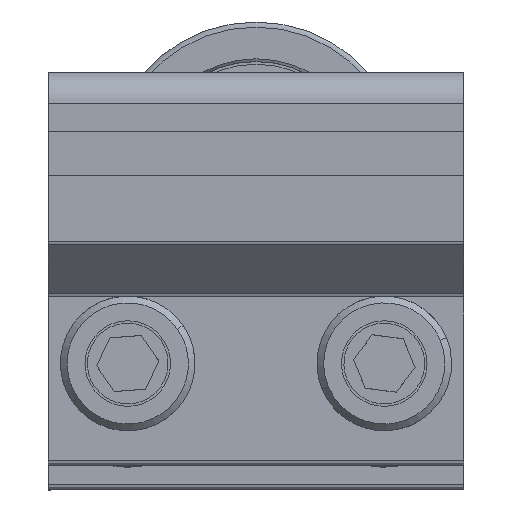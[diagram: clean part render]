
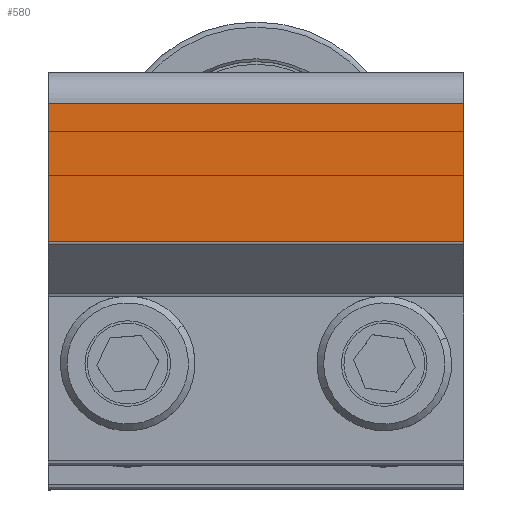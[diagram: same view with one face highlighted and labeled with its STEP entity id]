
A CAD part, top view. The second image highlights one B-rep face of the part: STEP entity #580.
In plain terms, the highlighted planar face has unit normal (0, 0, 1) as drawn and (1, 0, 0) by its records, which use the part's own axes.
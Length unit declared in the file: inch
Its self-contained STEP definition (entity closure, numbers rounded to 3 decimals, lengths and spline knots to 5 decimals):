
#74=DIRECTION('',(0.,0.,1.));
#75=VECTOR('',#74,1.216);
#76=CARTESIAN_POINT('',(0.375,0.35921,-0.608));
#77=LINE('',#76,#75);
#78=DIRECTION('',(0.,-1.,0.));
#79=VECTOR('',#78,0.40379);
#80=CARTESIAN_POINT('',(0.375,0.763,-0.608));
#81=LINE('',#80,#79);
#159=DIRECTION('',(0.,-1.,0.));
#160=VECTOR('',#159,0.40379);
#161=CARTESIAN_POINT('',(0.375,0.763,0.608));
#162=LINE('',#161,#160);
#163=DIRECTION('',(0.,0.,-1.));
#164=VECTOR('',#163,1.216);
#165=CARTESIAN_POINT('',(0.375,0.763,0.608));
#166=LINE('',#165,#164);
#374=CARTESIAN_POINT('',(0.375,0.763,-0.608));
#376=VERTEX_POINT('',#374);
#385=CARTESIAN_POINT('',(0.375,0.35921,-0.608));
#386=VERTEX_POINT('',#385);
#395=CARTESIAN_POINT('',(0.375,0.35921,0.608));
#396=VERTEX_POINT('',#395);
#423=CARTESIAN_POINT('',(0.375,0.763,0.608));
#424=VERTEX_POINT('',#423);
#568=CARTESIAN_POINT('',(0.375,0.763,0.608));
#569=DIRECTION('',(-1.,0.,0.));
#570=DIRECTION('',(0.,-1.,0.));
#571=AXIS2_PLACEMENT_3D('',#568,#569,#570);
#572=PLANE('',#571);
#573=ORIENTED_EDGE('',*,*,#485,.F.);
#575=ORIENTED_EDGE('',*,*,#574,.T.);
#576=ORIENTED_EDGE('',*,*,#526,.T.);
#577=ORIENTED_EDGE('',*,*,#516,.T.);
#578=EDGE_LOOP('',(#573,#575,#576,#577));
#579=FACE_OUTER_BOUND('',#578,.F.);
#485=EDGE_CURVE('',#424,#396,#162,.T.);
#516=EDGE_CURVE('',#386,#396,#77,.T.);
#526=EDGE_CURVE('',#376,#386,#81,.T.);
#574=EDGE_CURVE('',#424,#376,#166,.T.);
#580=ADVANCED_FACE('',(#579),#572,.F.);
